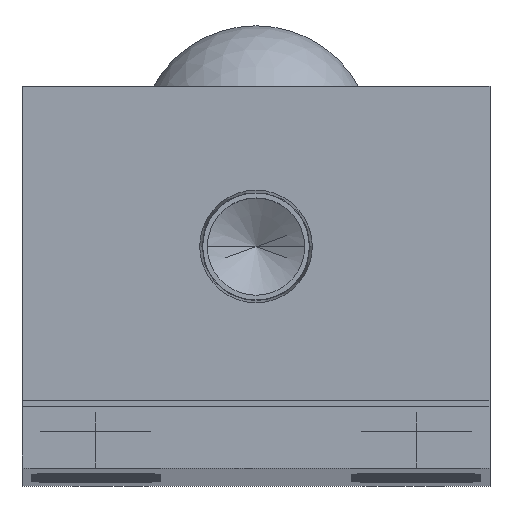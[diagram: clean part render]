
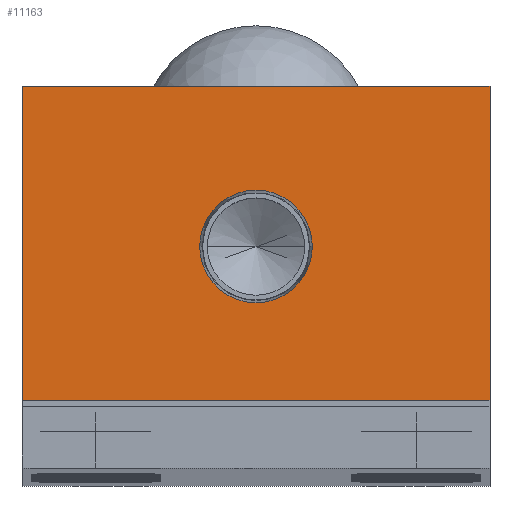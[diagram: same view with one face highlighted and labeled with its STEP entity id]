
A CAD part, top view. The second image highlights one B-rep face of the part: STEP entity #11163.
In plain terms, the highlighted planar face has unit normal (0, 0, 1).
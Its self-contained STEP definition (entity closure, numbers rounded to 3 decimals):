
#142 = DIRECTION ( 'NONE',  ( 1., 0., 0. ) ) ;
#720 = ORIENTED_EDGE ( 'NONE', *, *, #9419, .T. ) ;
#767 = CARTESIAN_POINT ( 'NONE',  ( -4.574, 18., 0. ) ) ;
#813 = VECTOR ( 'NONE', #15939, 1000. ) ;
#840 = CARTESIAN_POINT ( 'NONE',  ( 19., 31., 0. ) ) ;
#1061 = EDGE_CURVE ( 'NONE', #16430, #13887, #10105, .T. ) ;
#1114 = DIRECTION ( 'NONE',  ( 0., -1., 0. ) ) ;
#1225 = DIRECTION ( 'NONE',  ( 1., 0., 0. ) ) ;
#3302 = CARTESIAN_POINT ( 'NONE',  ( 19., 5.5, 0. ) ) ;
#3928 = EDGE_LOOP ( 'NONE', ( #16253, #720, #11273, #7941 ) ) ;
#4101 = CIRCLE ( 'NONE', #17804, 4.574 ) ;
#4346 = LINE ( 'NONE', #12950, #11904 ) ;
#6118 = CARTESIAN_POINT ( 'NONE',  ( 0., 0., 0. ) ) ;
#6280 = VERTEX_POINT ( 'NONE', #19034 ) ;
#6322 = DIRECTION ( 'NONE',  ( 0., 1., 0. ) ) ;
#6624 = AXIS2_PLACEMENT_3D ( 'NONE', #19386, #10296, #1225 ) ;
#6712 = LINE ( 'NONE', #8641, #18346 ) ;
#6903 = DIRECTION ( 'NONE',  ( 1., 0., 0. ) ) ;
#7081 = DIRECTION ( 'NONE',  ( 0., 0., 1. ) ) ;
#7089 = CARTESIAN_POINT ( 'NONE',  ( 19., 5.5, 0. ) ) ;
#7343 = EDGE_CURVE ( 'NONE', #6280, #10419, #6712, .T. ) ;
#7941 = ORIENTED_EDGE ( 'NONE', *, *, #7343, .T. ) ;
#8357 = ORIENTED_EDGE ( 'NONE', *, *, #11508, .F. ) ;
#8641 = CARTESIAN_POINT ( 'NONE',  ( -19., 31., 0. ) ) ;
#8840 = LINE ( 'NONE', #840, #813 ) ;
#9219 = DIRECTION ( 'NONE',  ( 0., 0., 1. ) ) ;
#9419 = EDGE_CURVE ( 'NONE', #18979, #10282, #10188, .T. ) ;
#10105 = CIRCLE ( 'NONE', #6624, 4.574 ) ;
#10188 = LINE ( 'NONE', #3302, #17798 ) ;
#10255 = FACE_OUTER_BOUND ( 'NONE', #3928, .T. ) ;
#10282 = VERTEX_POINT ( 'NONE', #11690 ) ;
#10296 = DIRECTION ( 'NONE',  ( 0., 0., 1. ) ) ;
#10419 = VERTEX_POINT ( 'NONE', #10568 ) ;
#10568 = CARTESIAN_POINT ( 'NONE',  ( -19., 5.5, 0. ) ) ;
#11163 = ADVANCED_FACE ( 'NONE', ( #13831, #10255 ), #18317, .T. ) ;
#11273 = ORIENTED_EDGE ( 'NONE', *, *, #17364, .T. ) ;
#11508 = EDGE_CURVE ( 'NONE', #13887, #16430, #4101, .T. ) ;
#11550 = CARTESIAN_POINT ( 'NONE',  ( 4.574, 18., 0. ) ) ;
#11690 = CARTESIAN_POINT ( 'NONE',  ( 19., 31., 0. ) ) ;
#11904 = VECTOR ( 'NONE', #6903, 1000. ) ;
#12451 = ORIENTED_EDGE ( 'NONE', *, *, #1061, .F. ) ;
#12950 = CARTESIAN_POINT ( 'NONE',  ( 19., 5.5, 0. ) ) ;
#13087 = AXIS2_PLACEMENT_3D ( 'NONE', #6118, #9219, #142 ) ;
#13831 = FACE_BOUND ( 'NONE', #16350, .T. ) ;
#13887 = VERTEX_POINT ( 'NONE', #767 ) ;
#15939 = DIRECTION ( 'NONE',  ( -1., 0., 0. ) ) ;
#16151 = CARTESIAN_POINT ( 'NONE',  ( 0., 18., 0. ) ) ;
#16253 = ORIENTED_EDGE ( 'NONE', *, *, #17846, .T. ) ;
#16350 = EDGE_LOOP ( 'NONE', ( #12451, #8357 ) ) ;
#16430 = VERTEX_POINT ( 'NONE', #11550 ) ;
#17364 = EDGE_CURVE ( 'NONE', #10282, #6280, #8840, .T. ) ;
#17699 = DIRECTION ( 'NONE',  ( 1., 0., 0. ) ) ;
#17798 = VECTOR ( 'NONE', #6322, 1000. ) ;
#17804 = AXIS2_PLACEMENT_3D ( 'NONE', #16151, #7081, #17699 ) ;
#17846 = EDGE_CURVE ( 'NONE', #10419, #18979, #4346, .T. ) ;
#18317 = PLANE ( 'NONE',  #13087 ) ;
#18346 = VECTOR ( 'NONE', #1114, 1000. ) ;
#18979 = VERTEX_POINT ( 'NONE', #7089 ) ;
#19034 = CARTESIAN_POINT ( 'NONE',  ( -19., 31., 0. ) ) ;
#19386 = CARTESIAN_POINT ( 'NONE',  ( 0., 18., 0. ) ) ;
